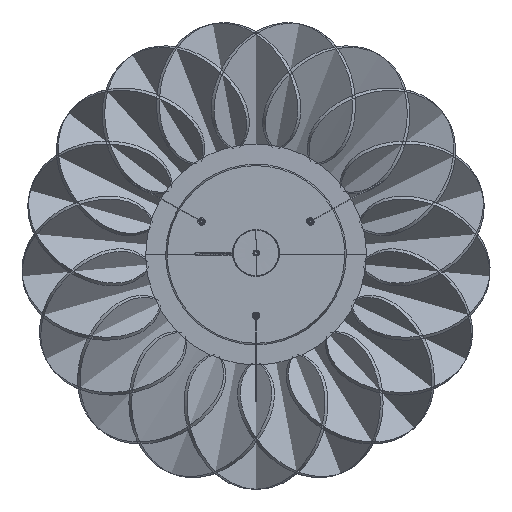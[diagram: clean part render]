
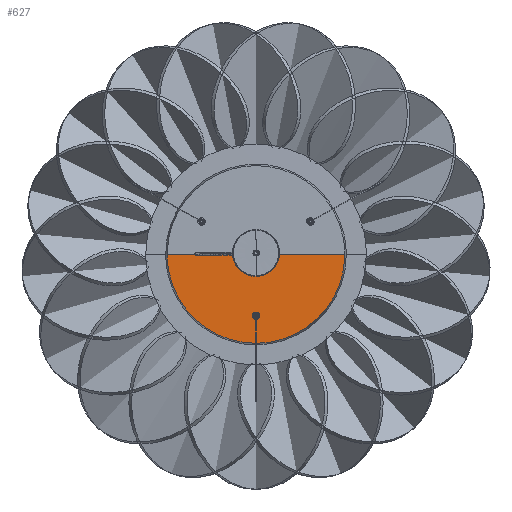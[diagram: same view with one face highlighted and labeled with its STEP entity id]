
A CAD part, top view. The second image highlights one B-rep face of the part: STEP entity #627.
In plain terms, the highlighted planar face has unit normal (0, 0, 1).
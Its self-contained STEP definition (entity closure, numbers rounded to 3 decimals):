
#119=(
BOUNDED_CURVE()
B_SPLINE_CURVE(2,(#19797,#19798,#19799,#19800,#19801),.UNSPECIFIED.,.F.,
 .F.)
B_SPLINE_CURVE_WITH_KNOTS((3,2,3),(738.176,1107.264,1476.352),
 .UNSPECIFIED.)
CURVE()
GEOMETRIC_REPRESENTATION_ITEM()
RATIONAL_B_SPLINE_CURVE((1.,0.707,1.,0.707,1.))
REPRESENTATION_ITEM('')
);
#627=ADVANCED_FACE('',(#917),#3578,.T.);
#917=FACE_OUTER_BOUND('',#1207,.T.);
#1207=EDGE_LOOP('',(#1837,#1838,#1839));
#1837=ORIENTED_EDGE('',*,*,#2612,.T.);
#1838=ORIENTED_EDGE('',*,*,#2628,.F.);
#1839=ORIENTED_EDGE('',*,*,#2627,.F.);
#2612=EDGE_CURVE('',#3315,#3322,#3107,.T.);
#2627=EDGE_CURVE('',#3315,#3324,#3115,.T.);
#2628=EDGE_CURVE('',#3324,#3322,#119,.T.);
#3107=B_SPLINE_CURVE_WITH_KNOTS('',1,(#19744,#19745),.UNSPECIFIED.,.F.,
 .F.,(2,2),(0.,189.249),.UNSPECIFIED.);
#3115=B_SPLINE_CURVE_WITH_KNOTS('',1,(#19795,#19796),.UNSPECIFIED.,.F.,
 .F.,(2,2),(0.,189.249),.UNSPECIFIED.);
#3315=VERTEX_POINT('',#19730);
#3322=VERTEX_POINT('',#19737);
#3324=VERTEX_POINT('',#19739);
#3578=PLANE('',#3865);
#3865=AXIS2_PLACEMENT_3D('',#19679,#4059,$);
#4059=DIRECTION('',(0.,0.,1.));
#19679=CARTESIAN_POINT('',(0.,0.,282.278));
#19730=CARTESIAN_POINT('',(0.,0.,282.278));
#19737=CARTESIAN_POINT('',(-189.249,0.,282.278));
#19739=CARTESIAN_POINT('',(189.249,0.,282.278));
#19744=CARTESIAN_POINT('',(0.,0.,282.278));
#19745=CARTESIAN_POINT('',(-189.249,0.,282.278));
#19795=CARTESIAN_POINT('',(0.,0.,282.278));
#19796=CARTESIAN_POINT('',(189.249,0.,282.278));
#19797=CARTESIAN_POINT('',(189.249,0.,282.278));
#19798=CARTESIAN_POINT('',(189.249,-189.249,282.278));
#19799=CARTESIAN_POINT('',(0.,-189.249,282.278));
#19800=CARTESIAN_POINT('',(-189.249,-189.249,282.278));
#19801=CARTESIAN_POINT('',(-189.249,0.,282.278));
